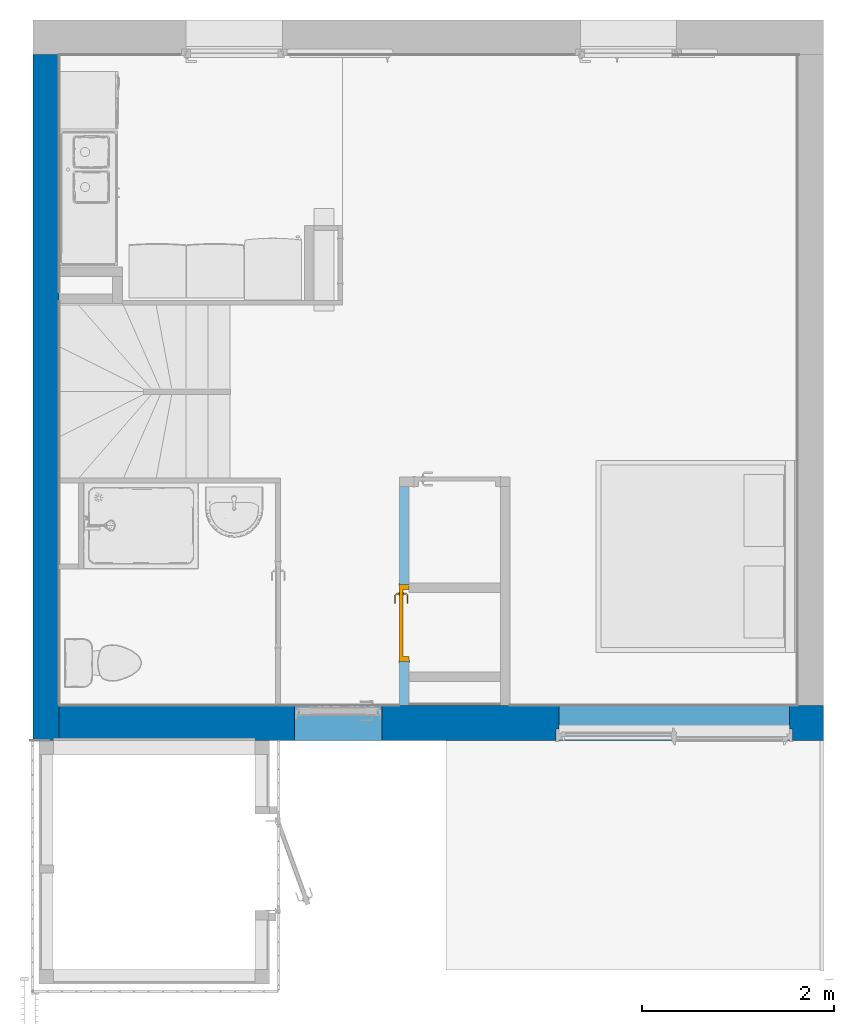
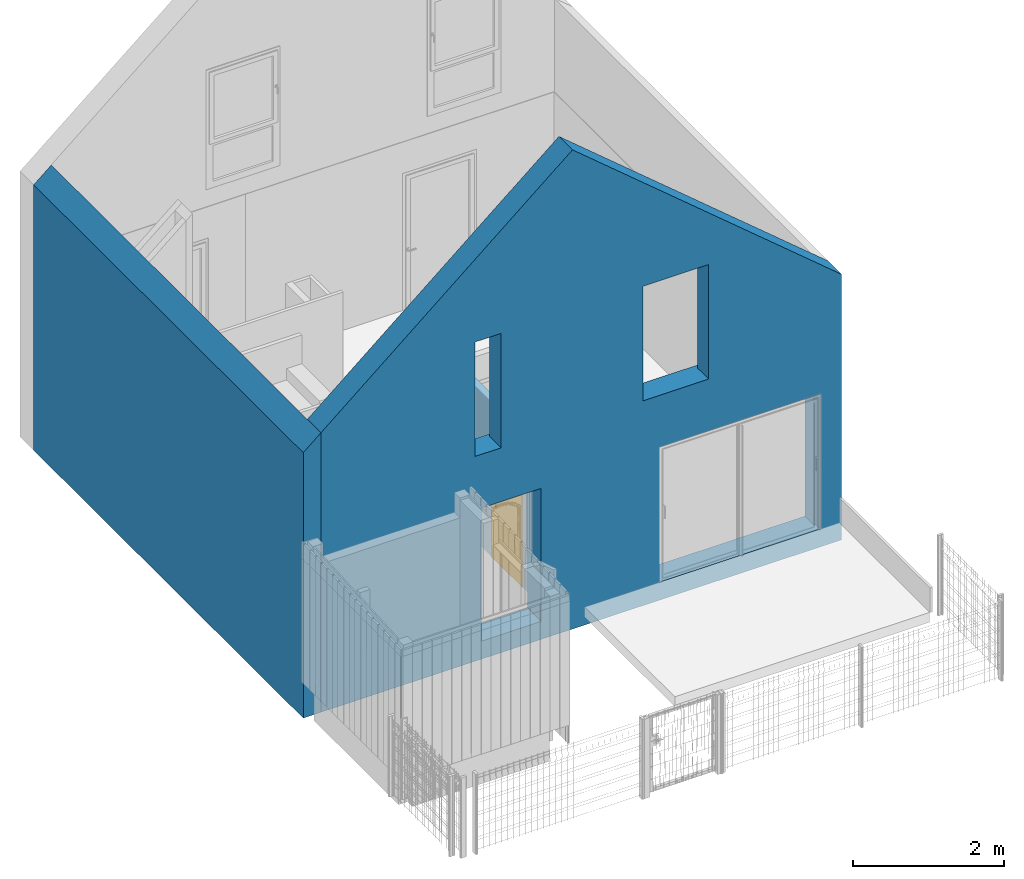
# One storey, part 75 of 81: 2 walls, 1 door, 1 opening, plus 1 element that does not belong to this part.
"""IFC2X3 building model written with IfcOpenShell, lengths in metres."""

from ifc_helpers import new_model, entity, si_unit, converted_unit, derived_unit, direction, frame, frame_2d, origin, place, context, subcontext, project, spatial, polyline, rectangle, extrude, clip, bounded_halfspace, faceted_brep, source, transform, mapped, material, material_list, layer, layer_set, layer_usage, type_object, type_shapes, element, fill, save


model = new_model("IFC2X3")

# Units and contexts
model_context = context("Model", 3, precision=1e-05, world=origin(), true_north=direction((6.12303176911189e-17, 1.0)))
body_context = subcontext(model_context, "Body", "Model", "MODEL_VIEW")
ifc_project = project(units=[si_unit("LENGTHUNIT", "METRE"), si_unit("AREAUNIT", "SQUARE_METRE"), si_unit("VOLUMEUNIT", "CUBIC_METRE"), converted_unit("PLANEANGLEUNIT", "DEGREE", entity("IfcRatioMeasure", 0.0174532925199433), si_unit("PLANEANGLEUNIT", "RADIAN"), dimensions=[0, 0, 0, 0, 0, 0, 0]), si_unit("MASSUNIT", "GRAM", prefix="KILO"), derived_unit("MASSDENSITYUNIT", [(si_unit("MASSUNIT", "GRAM", prefix="KILO"), 1), (si_unit("LENGTHUNIT", "METRE"), -3)]), derived_unit("MOMENTOFINERTIAUNIT", [(si_unit("LENGTHUNIT", "METRE"), 4)]), si_unit("TIMEUNIT", "SECOND"), si_unit("FREQUENCYUNIT", "HERTZ"), si_unit("THERMODYNAMICTEMPERATUREUNIT", "DEGREE_CELSIUS"), derived_unit("THERMALTRANSMITTANCEUNIT", [(si_unit("MASSUNIT", "GRAM", prefix="KILO"), 1), (si_unit("THERMODYNAMICTEMPERATUREUNIT", "KELVIN"), -1), (si_unit("TIMEUNIT", "SECOND"), -3)]), derived_unit("VOLUMETRICFLOWRATEUNIT", [(si_unit("LENGTHUNIT", "METRE"), 3), (si_unit("TIMEUNIT", "SECOND"), -1)]), si_unit("ELECTRICCURRENTUNIT", "AMPERE"), si_unit("ELECTRICVOLTAGEUNIT", "VOLT"), si_unit("POWERUNIT", "WATT"), si_unit("FORCEUNIT", "NEWTON", prefix="KILO"), si_unit("ILLUMINANCEUNIT", "LUX"), si_unit("LUMINOUSFLUXUNIT", "LUMEN"), si_unit("LUMINOUSINTENSITYUNIT", "CANDELA"), derived_unit("USERDEFINED", [(si_unit("MASSUNIT", "GRAM", prefix="KILO"), -1), (si_unit("LENGTHUNIT", "METRE"), -2), (si_unit("TIMEUNIT", "SECOND"), 3), (si_unit("LUMINOUSFLUXUNIT", "LUMEN"), 1)]), derived_unit("LINEARVELOCITYUNIT", [(si_unit("LENGTHUNIT", "METRE"), 1), (si_unit("TIMEUNIT", "SECOND"), -1)]), si_unit("PRESSUREUNIT", "PASCAL"), derived_unit("USERDEFINED", [(si_unit("LENGTHUNIT", "METRE"), -2), (si_unit("MASSUNIT", "GRAM", prefix="KILO"), 1), (si_unit("TIMEUNIT", "SECOND"), -2)]), derived_unit("LINEARFORCEUNIT", [(si_unit("MASSUNIT", "GRAM", prefix="KILO"), 1), (si_unit("LENGTHUNIT", "METRE"), 1), (si_unit("TIMEUNIT", "SECOND"), -2), (si_unit("LENGTHUNIT", "METRE"), -1)]), derived_unit("PLANARFORCEUNIT", [(si_unit("MASSUNIT", "GRAM", prefix="KILO"), 1), (si_unit("LENGTHUNIT", "METRE"), 1), (si_unit("TIMEUNIT", "SECOND"), -2), (si_unit("LENGTHUNIT", "METRE"), -2)])], contexts=[model_context])

# Site, building, storey
site_placement = place(None, origin())
site = spatial("IfcSite", under=ifc_project, at=site_placement, Name="Surface", CompositionType="ELEMENT")
building_placement = place(site_placement, origin())
building = spatial("IfcBuilding", under=site, at=building_placement, CompositionType="ELEMENT")
storey_placement = place(building_placement, origin())
storey = spatial("IfcBuildingStorey", under=building, at=storey_placement, Name="01 RDC", CompositionType="ELEMENT", Elevation=-1.94916083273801e-14)

# Walls
ifc_material_1 = material(Name="Maçonnerie - Enduit")
ifc_layer_1 = layer(ifc_material_1, 0.02)
ifc_material_2 = material(Name="Blocs béton manufacturés")
ifc_layer_2 = layer(ifc_material_2, 0.2)
ifc_material_3 = material(Name="Maçonnerie - Isolant")
ifc_layer_3 = layer(ifc_material_3, 0.14)
ifc_layer_set_1 = layer_set([ifc_layer_1, ifc_layer_2, ifc_layer_3], Name="Mur de base:Ext. Enduit 2 + Parpaing 20 + Isolant 14")
wall_type_1 = type_object("IfcWallType", Name="Mur de base:Ext. Enduit 2 + Parpaing 20 + Isolant 14", PredefinedType="STANDARD", material=ifc_layer_set_1)
wall_1_placement = place(storey_placement, frame((13.6965615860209, -3.51596095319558, -0.29), z_axis=(0.0, 0.0, 1.0), x_axis=(-1.0, 0.0, 0.0)))
element("IfcWall", 1, at=wall_1_placement, inside=storey, type_object=wall_type_1, Name="Mur de base:Ext. Enduit 2 + Parpaing 20 + Isolant 14", ObjectType="Mur de base:Ext. Enduit 2 + Parpaing 20 + Isolant 14", context=body_context, shape_type="Brep", body=[
    faceted_brep([(0.0, -0.18, 4.29000000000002), (0.0, -0.18, 0.0), (0.11999999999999, -0.18, 0.0), (0.119999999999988, -0.18, 0.28), (0.270000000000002, -0.18, 0.28), (7.95999999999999, -0.18, 0.28), (7.95999999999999, -0.18, 4.51655690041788), (4.115, -0.18, 7.74289498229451), (0.270000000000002, -0.18, 4.51655690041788), (0.355000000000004, -0.18, 2.44), (2.755, -0.18, 2.44), (2.755, -0.18, 0.29), (0.355000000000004, -0.18, 0.29), (4.595, -0.18, 2.44000000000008), (5.505, -0.18, 2.44000000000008), (5.505, -0.18, 0.290000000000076), (4.595, -0.18, 0.290000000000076), (1.98200000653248, -0.18, 3.30600000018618), (1.98200000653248, -0.18, 5.21149999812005), (3.0850000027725, -0.18, 5.21149999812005), (3.0850000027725, -0.18, 3.30600000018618), (5.65799999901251, -0.18, 5.21149999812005), (5.65799999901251, -0.18, 3.30600000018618), (5.1550000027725, -0.18, 3.30600000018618), (5.1550000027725, -0.18, 5.21149999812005), (7.95999999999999, 0.18, 0.0), (0.0, 0.18, 0.0), (0.0, 0.18, 4.29000000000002), (4.115, 0.18, 7.74289498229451), (7.95999999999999, 0.18, 4.51655690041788), (5.6065000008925, 0.18, 5.16000000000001), (5.2065000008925, 0.18, 5.16000000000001), (5.2065000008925, 0.18, 3.31000000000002), (5.6065000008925, 0.18, 3.31000000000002), (3.03350000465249, 0.18, 5.16000000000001), (2.03350000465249, 0.18, 5.16000000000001), (2.03350000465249, 0.18, 3.31000000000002), (3.03350000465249, 0.18, 3.31000000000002), (2.755, 0.18, 0.29), (2.785, 0.18, 0.29), (2.785, 0.18, 2.47), (0.325000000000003, 0.18, 2.47), (0.325000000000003, 0.18, 0.29), (0.355000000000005, 0.18, 0.29), (5.505, 0.18, 2.44000000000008), (4.595, 0.18, 2.44000000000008), (4.595, 0.18, 0.290000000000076), (5.505, 0.18, 0.290000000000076), (7.95999999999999, 0.0599999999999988, 0.0), (0.119999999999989, 0.0599999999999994, 0.0), (0.119999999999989, 0.0599999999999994, 0.28), (7.95999999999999, 0.0599999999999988, 0.28), (0.355000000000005, 0.0599999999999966, 2.44), (2.755, 0.0599999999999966, 2.44), (2.755, 0.0599999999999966, 0.29), (2.78500000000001, 0.0599999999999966, 0.29), (0.325000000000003, 0.0599999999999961, 0.29), (0.355000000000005, 0.0599999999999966, 0.29), (2.78500000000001, 0.0599999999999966, 2.47), (0.325000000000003, 0.0599999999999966, 2.47), (3.03350000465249, -0.119999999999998, 5.16000000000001), (2.03350000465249, -0.119999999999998, 5.16000000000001), (2.03350000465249, -0.119999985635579, 3.31000000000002), (3.03350000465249, -0.119999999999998, 3.31000000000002), (2.03350000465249, -0.119999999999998, 3.31000000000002), (3.03350000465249, -0.119999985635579, 3.31000000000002), (3.0850000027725, -0.119999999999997, 5.21149999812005), (1.98200000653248, -0.119999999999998, 5.21149999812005), (1.98200000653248, -0.119999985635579, 3.30600000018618), (3.0850000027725, -0.119999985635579, 3.30600000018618), (5.20650000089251, -0.119999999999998, 5.16000000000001), (5.60650000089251, -0.119999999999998, 5.16000000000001), (5.60650000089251, -0.119999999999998, 3.31000000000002), (5.20650000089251, -0.11999998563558, 3.31000000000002), (5.20650000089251, -0.119999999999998, 3.31000000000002), (5.60650000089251, -0.11999998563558, 3.31000000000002), (5.65799999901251, -0.119999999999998, 5.21149999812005), (5.1550000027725, -0.119999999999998, 5.21149999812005), (5.1550000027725, -0.119999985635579, 3.30600000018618), (5.65799999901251, -0.119999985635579, 3.30600000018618)], [[[0, 1, 2, 3, 4, 5, 6, 7, 8], [9, 10, 11, 12], [13, 14, 15, 16], [17, 18, 19, 20], [21, 22, 23, 24]], [[25, 26, 27, 28, 29], [30, 31, 32, 33], [34, 35, 36, 37], [38, 39, 40, 41, 42, 43], [44, 45, 46, 47]], [[26, 25, 48, 49, 2, 1]], [[1, 0, 27, 26]], [[27, 0, 8, 7, 28]], [[7, 6, 29, 28]], [[3, 50, 51, 5, 4]], [[49, 50, 3, 2]], [[50, 49, 48, 51]], [[52, 53, 10, 9]], [[54, 55, 39, 38, 43, 42, 56, 57, 12, 11]], [[53, 54, 11, 10]], [[57, 52, 9, 12]], [[39, 55, 58, 40]], [[53, 52, 57, 56, 59, 58, 55, 54]], [[40, 58, 59, 41]], [[56, 42, 41, 59]], [[13, 45, 44, 14]], [[15, 47, 46, 16]], [[14, 44, 47, 15]], [[45, 13, 16, 46]], [[34, 60, 61, 35]], [[36, 62, 63, 37]], [[35, 61, 64, 36]], [[60, 65, 64, 61], [66, 67, 68, 69]], [[68, 67, 18, 17]], [[66, 69, 20, 19]], [[63, 60, 34, 37]], [[69, 68, 17, 20]], [[67, 66, 19, 18]], [[70, 31, 30, 71]], [[72, 33, 32, 73]], [[71, 30, 33, 72]], [[74, 70, 71, 75], [76, 77, 78, 79]], [[76, 79, 22, 21]], [[78, 77, 24, 23]], [[70, 74, 32, 31]], [[79, 78, 23, 22]], [[77, 76, 21, 24]], [[29, 6, 5, 51, 48, 25]]], outer=[[True, False, False, False, False], [True, False, False, False, False], [True], [True], [True], [True], [True], [True], [True], [True], [True], [True], [True], [True], [True], [True], [True], [True], [True], [True], [True], [True], [True], [True], [False, True], [True], [True], [True], [True], [True], [True], [True], [True], [False, True], [True], [True], [True], [True], [True], [True]]),
])
ifc_material_4 = material(Name="Maçonnerie - Enduit Blanc")
ifc_layer_4 = layer(ifc_material_4, 0.02)
ifc_layer_5 = layer(ifc_material_2, 0.2)
ifc_layer_6 = layer(ifc_material_3, 0.04)
ifc_material_5 = material(Name="Placoplâtre de gypse")
ifc_layer_7 = layer(ifc_material_5, 0.01)
ifc_layer_set_2 = layer_set([ifc_layer_4, ifc_layer_5, ifc_layer_6, ifc_layer_7], Name="Mur de base:Ext. Parpaing 20 + Isolant 5 + BA10")
wall_type_2 = type_object("IfcWallType", Name="Mur de base:Ext. Parpaing 20 + Isolant 5 + BA10", PredefinedType="STANDARD", material=ifc_layer_set_2)
wall_2_placement = place(storey_placement, frame((5.6015615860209, 3.44303904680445, -0.29), z_axis=(0.0, 0.0, 1.0), x_axis=(0.0, -1.0, 0.0)))
element("IfcWall", 2, at=wall_2_placement, inside=storey, type_object=wall_type_2, Name="Mur de base:Ext. Parpaing 20 + Isolant 5 + BA10", ObjectType="Mur de base:Ext. Parpaing 20 + Isolant 5 + BA10", context=body_context, shape_type="Brep", body=[
    faceted_brep([(0.0, -0.135000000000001, 0.0), (7.139, -0.135000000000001, 0.0), (7.139, -0.135000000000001, 4.29000000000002), (0.0, -0.135000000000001, 4.29000000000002), (0.0, 0.134999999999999, 4.51655690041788), (6.779, 0.134999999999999, 4.51655690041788), (7.139, 0.134999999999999, 4.51655690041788), (7.139, 0.134999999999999, 0.0), (7.019, 0.134999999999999, 0.0), (7.019, 0.134999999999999, 0.28), (6.779, 0.134999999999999, 0.28), (4.40113539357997, 0.134999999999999, 0.28), (4.40113539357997, 0.134999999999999, 0.0), (2.60900000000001, 0.134999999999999, 0.0), (2.60900000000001, 0.134999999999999, 0.28), (0.0, 0.134999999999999, 0.28), (0.0, -0.0150000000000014, 0.0), (2.60900000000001, -0.0150000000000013, 0.0), (4.40113539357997, -0.00979609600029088, 0.0), (7.019, -0.00979609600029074, 0.0), (0.0, -0.0150000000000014, 0.28), (2.60900000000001, -0.0150000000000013, 0.28), (7.019, -0.00979609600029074, 0.28), (4.40113539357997, -0.00979609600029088, 0.28)], [[[0, 1, 2, 3]], [[4, 5, 6, 7, 8, 9, 10, 11, 12, 13, 14, 15]], [[1, 0, 16, 17, 13, 12, 18, 19, 8, 7]], [[0, 3, 4, 15, 20, 16]], [[3, 2, 6, 5, 4]], [[21, 20, 15, 14]], [[21, 17, 16, 20]], [[19, 22, 9, 8]], [[23, 22, 19, 18]], [[23, 18, 12, 11]], [[17, 21, 14, 13]], [[1, 7, 6, 2]], [[22, 23, 11, 10, 9]]]),
])

# Wall, opening, door
ifc_material_6 = material(Name="Isolant - laine minérale")
ifc_layer_8 = layer(ifc_material_6, 0.1)
ifc_layer_set_3 = layer_set([ifc_layer_8], Name="Mur de base:Int. Polyester 100 mm")
ifc_layer_usage = layer_usage(ifc_layer_set_3, "AXIS2", "NEGATIVE", 0.05)
wall_type_3 = type_object("IfcWallType", Name="Mur de base:Int. Polyester 100 mm", PredefinedType="STANDARD", material=ifc_layer_set_3)
wall_3_placement = place(storey_placement, frame((9.33156158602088, -1.05596095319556, 0.0), z_axis=(0.0, 0.0, 1.0), x_axis=(0.0, -1.0, 0.0)))
wall_3 = element("IfcWallStandardCase", 3, at=wall_3_placement, inside=storey, type_object=wall_type_3, material=ifc_layer_usage, Name="Mur de base:Int. Polyester 100 mm", ObjectType="Mur de base:Int. Polyester 100 mm", context=body_context, shape_type="Clipping", body=[
    clip(extrude(rectangle(XDim=2.28, YDim=0.0999999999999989, at=frame_2d((1.14, -3.43475248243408e-16), x_axis=(-1.0, 0.0))), origin(), (0.0, 0.0, 1.0), 2.495), bounded_halfspace(frame((0.0, -0.050000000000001, 2.495), z_axis=(0.0, 0.0, -1.0), x_axis=(-1.0, 0.0, 0.0)), True, frame((0.0, -0.050000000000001, 2.495)), polyline([(0.0, 0.0), (2.28, 0.0), (2.28, 0.0999999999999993), (2.03, 0.1), (1.93, 0.0999999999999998), (1.1, 0.0999999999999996), (1.0, 0.0999999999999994), (0.0, 0.1), (0.0, 0.0)]))),
])
opening_placement = place(wall_3_placement, frame((1.82, 0.0499999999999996, 0.0)))
opening = element("IfcOpeningElement", 4, at=opening_placement, cuts=wall_3, Name="Int. Simple:PP (0.73m x 2.04m):1", ObjectType="Opening", context=body_context, shape_type="SweptSolid", body=[
    extrude(rectangle(XDim=2.075, YDim=0.799999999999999, at=frame_2d((1.0375, 0.4), x_axis=(1.0, 0.0))), frame((0.0, 0.0, 0.0), z_axis=(0.0, -1.0, 0.0), x_axis=(0.0, 0.0, 1.0)), (0.0, 0.0, 1.0), 0.1),
])
ifc_material_7 = material(Name="Finition Peinture - Blanc satiné")
ifc_material_8 = material(Name="Bois - Panneau de porte")
ifc_material_9 = material(Name="Bois - Cadre de porte")
ifc_material_list_1 = material_list([ifc_material_7, ifc_material_8, ifc_material_9])
ifc_material_list_2 = material_list([ifc_material_7, ifc_material_8, ifc_material_9, ifc_material_9])
door_style = type_object("IfcDoorStyle", Name="Int. Simple:PP (0.73m x 2.04m)", ConstructionType="NOTDEFINED", OperationType="NOTDEFINED", ParameterTakesPrecedence=False, Sizeable=False, material=ifc_material_list_2)
shared_shape = source(origin(), body_context, "Body", "Brep", [
    faceted_brep([(0.105352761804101, -0.00500000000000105, 0.866003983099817), (0.115, -0.00500000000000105, 0.870000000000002), (0.114999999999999, -0.00500000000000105, 1.08), (0.1053527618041, -0.00500000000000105, 1.08399601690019), (0.0949999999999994, -0.00500000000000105, 1.08535898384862), (0.0846472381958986, -0.00500000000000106, 1.08399601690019), (0.0749999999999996, -0.00500000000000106, 1.08), (0.0750000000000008, -0.00500000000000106, 0.870000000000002), (0.0846472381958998, -0.00500000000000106, 0.866003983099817), (0.0950000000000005, -0.00500000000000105, 0.86464101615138), (0.1053527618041, 0.0, 1.08399601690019), (0.114999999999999, 0.0, 1.08), (0.115, 0.0, 0.870000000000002), (0.105352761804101, 0.0, 0.866003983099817), (0.0950000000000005, 0.0, 0.86464101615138), (0.0846472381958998, 0.0, 0.866003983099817), (0.0749999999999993, 0.0, 0.870000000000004), (0.0749999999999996, 0.0, 1.08), (0.0846472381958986, 0.0, 1.08399601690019), (0.0949999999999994, 0.0, 1.08535898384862)], [[[0, 1, 2, 3, 4, 5, 6, 7, 8, 9]], [[10, 11, 12, 13, 14, 15, 16, 17, 18, 19]], [[16, 15, 8, 7]], [[8, 15, 14, 9]], [[14, 13, 0, 9]], [[13, 12, 1, 0]], [[2, 1, 12, 11]], [[11, 10, 3, 2]], [[3, 10, 19, 4]], [[19, 18, 5, 4]], [[18, 17, 6, 5]], [[7, 6, 17, 16]]]),
    faceted_brep([(0.105352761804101, 0.0399999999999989, 0.866003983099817), (0.115, 0.0399999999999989, 0.870000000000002), (0.114999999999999, 0.0399999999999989, 1.08), (0.1053527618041, 0.0399999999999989, 1.08399601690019), (0.094999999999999, 0.0399999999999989, 1.08535898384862), (0.0846472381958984, 0.0399999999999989, 1.08399601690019), (0.0749999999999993, 0.0399999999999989, 1.08), (0.0750000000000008, 0.0399999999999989, 0.870000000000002), (0.0846472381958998, 0.0399999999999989, 0.866003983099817), (0.0950000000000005, 0.0399999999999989, 0.86464101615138), (0.1053527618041, 0.0449999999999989, 1.08399601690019), (0.114999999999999, 0.0449999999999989, 1.08), (0.115, 0.0449999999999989, 0.870000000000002), (0.105352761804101, 0.0449999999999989, 0.866003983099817), (0.0950000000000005, 0.0449999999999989, 0.86464101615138), (0.0846472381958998, 0.0449999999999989, 0.866003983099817), (0.0749999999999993, 0.0449999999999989, 0.870000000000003), (0.0749999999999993, 0.0449999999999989, 1.08), (0.0846472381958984, 0.0449999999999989, 1.08399601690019), (0.094999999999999, 0.0449999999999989, 1.08535898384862)], [[[0, 1, 2, 3, 4, 5, 6, 7, 8, 9]], [[10, 11, 12, 13, 14, 15, 16, 17, 18, 19]], [[11, 10, 3, 2]], [[3, 10, 19, 4]], [[19, 18, 5, 4]], [[18, 17, 6, 5]], [[7, 6, 17, 16]], [[16, 15, 8, 7]], [[8, 15, 14, 9]], [[14, 13, 0, 9]], [[13, 12, 1, 0]], [[2, 1, 12, 11]]]),
    faceted_brep([(0.0929747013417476, -0.00500000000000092, 1.00778044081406), (0.0970252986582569, -0.0050000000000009, 1.00778044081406), (0.101000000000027, -0.00500000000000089, 1.00699999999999), (0.101000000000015, -0.00500000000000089, 0.993000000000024), (0.0970252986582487, -0.0050000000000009, 0.992219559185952), (0.0929747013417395, -0.00500000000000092, 0.99221955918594), (0.0889999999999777, -0.00500000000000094, 0.992999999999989), (0.0889999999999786, -0.00500000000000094, 1.007), (0.0889999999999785, -0.0326509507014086, 1.007), (0.0929747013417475, -0.0310045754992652, 1.00778044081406), (0.109023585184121, -0.0470534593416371, 1.00778044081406), (0.110701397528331, -0.0430028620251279, 1.00778044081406), (0.0970252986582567, -0.0293267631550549, 1.00778044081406), (0.101000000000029, -0.0276803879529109, 1.007), (0.101000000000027, -0.0276803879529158, 0.993000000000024), (0.0970252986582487, -0.0293267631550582, 0.992219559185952), (0.110701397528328, -0.0430028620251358, 0.992219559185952), (0.109023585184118, -0.0470534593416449, 0.99221955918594), (0.0929747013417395, -0.0310045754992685, 0.99221955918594), (0.0889999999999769, -0.0326509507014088, 0.992999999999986), (0.107377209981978, -0.0510281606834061, 1.007), (0.112347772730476, -0.0390281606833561, 1.007), (0.112347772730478, -0.0390281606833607, 0.993000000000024), (0.107377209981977, -0.0510281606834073, 0.992999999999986), (0.195018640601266, -0.051028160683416, 0.992999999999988), (0.195018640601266, -0.0470534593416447, 0.99221955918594), (0.195018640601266, -0.0430028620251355, 0.992219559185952), (0.195018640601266, -0.0390281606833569, 0.993000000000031), (0.195018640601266, -0.0390281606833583, 1.007), (0.195018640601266, -0.0430028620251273, 1.00778044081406), (0.195018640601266, -0.0470534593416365, 1.00778044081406), (0.195018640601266, -0.0510281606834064, 1.00699999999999), (0.147307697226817, -0.0510281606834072, 1.007), (0.152860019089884, -0.045028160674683, 1.0078786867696), (0.15368320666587, -0.039028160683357, 1.007), (0.153683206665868, -0.0390281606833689, 0.993000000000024), (0.152860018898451, -0.0450281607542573, 0.992121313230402), (0.147307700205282, -0.0510281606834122, 0.992999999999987)], [[[0, 1, 2, 3, 4, 5, 6, 7]], [[8, 9, 0, 7]], [[9, 10, 11, 12, 1, 0]], [[12, 13, 2, 1]], [[3, 2, 13, 14]], [[14, 15, 4, 3]], [[15, 16, 17, 18, 5, 4]], [[18, 19, 6, 5]], [[7, 6, 19, 8]], [[20, 10, 9, 8]], [[11, 21, 13, 12]], [[14, 13, 21, 22]], [[22, 16, 15, 14]], [[17, 23, 19, 18]], [[8, 19, 23, 20]], [[24, 25, 26, 27, 28, 29, 30, 31]], [[32, 30, 33]], [[31, 30, 32]], [[10, 20, 32]], [[33, 34, 11]], [[21, 11, 34]], [[34, 29, 28]], [[30, 29, 33]], [[29, 34, 33]], [[10, 32, 33]], [[10, 33, 11]], [[22, 21, 34, 28, 27, 35]], [[35, 26, 36]], [[37, 36, 25]], [[22, 35, 16]], [[35, 27, 26]], [[24, 37, 25]], [[23, 17, 37]], [[37, 17, 36]], [[17, 16, 36]], [[16, 35, 36]], [[25, 36, 26]], [[20, 23, 37, 24, 31, 32]]]),
    faceted_brep([(0.0929747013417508, 0.0449999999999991, 1.00778044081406), (0.0889999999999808, 0.044999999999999, 1.007), (0.0889999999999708, 0.044999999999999, 0.992999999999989), (0.0929747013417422, 0.0449999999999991, 0.99221955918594), (0.0970252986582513, 0.0449999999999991, 0.992219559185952), (0.10100000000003, 0.0449999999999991, 0.993000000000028), (0.101000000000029, 0.0449999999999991, 1.007), (0.0970252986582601, 0.0449999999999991, 1.00778044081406), (0.10100000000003, 0.067485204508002, 0.993000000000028), (0.10100000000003, 0.0674852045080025, 1.007), (0.0970252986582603, 0.0691315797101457, 1.00778044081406), (0.110838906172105, 0.0829451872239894, 1.00778044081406), (0.109161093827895, 0.0869957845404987, 1.00778044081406), (0.092974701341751, 0.070809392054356, 1.00778044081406), (0.0889999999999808, 0.0724557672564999, 1.007), (0.0889999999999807, 0.072455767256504, 0.992999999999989), (0.0929747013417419, 0.0708093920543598, 0.99221955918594), (0.109161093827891, 0.0869957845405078, 0.99221955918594), (0.110838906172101, 0.0829451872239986, 0.992219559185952), (0.0970252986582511, 0.0691315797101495, 0.992219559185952), (0.112485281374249, 0.0789704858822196, 0.993000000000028), (0.112485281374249, 0.0789704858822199, 1.007), (0.107514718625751, 0.0909704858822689, 1.007), (0.107514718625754, 0.090970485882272, 0.992999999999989), (0.195045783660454, 0.0789704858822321, 0.993000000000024), (0.195045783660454, 0.0829451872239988, 0.992219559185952), (0.195045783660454, 0.086995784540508, 0.99221955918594), (0.195045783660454, 0.0909704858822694, 0.992999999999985), (0.195045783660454, 0.0909704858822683, 1.007), (0.195045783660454, 0.0869957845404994, 1.00778044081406), (0.195045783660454, 0.0829451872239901, 1.00778044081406), (0.195045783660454, 0.0789704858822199, 1.007), (0.153765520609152, 0.0789704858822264, 0.993000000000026), (0.153765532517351, 0.0789704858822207, 1.007), (0.152942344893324, 0.0849704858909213, 1.0078786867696), (0.147445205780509, 0.0909704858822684, 1.007), (0.147445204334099, 0.0909704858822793, 0.992999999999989), (0.152942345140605, 0.0849704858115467, 0.992121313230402)], [[[0, 1, 2, 3, 4, 5, 6, 7]], [[6, 5, 8, 9]], [[9, 10, 7, 6]], [[10, 11, 12, 13, 0, 7]], [[13, 14, 1, 0]], [[2, 1, 14, 15]], [[15, 16, 3, 2]], [[16, 17, 18, 19, 4, 3]], [[19, 8, 5, 4]], [[9, 8, 20, 21]], [[21, 11, 10, 9]], [[12, 22, 14, 13]], [[15, 14, 22, 23]], [[23, 17, 16, 15]], [[18, 20, 8, 19]], [[24, 25, 26, 27, 28, 29, 30, 31]], [[21, 20, 32, 24, 31, 33]], [[33, 30, 34]], [[35, 34, 29]], [[21, 33, 11]], [[33, 31, 30]], [[28, 35, 29]], [[22, 12, 35]], [[35, 12, 34]], [[12, 11, 34]], [[11, 33, 34]], [[29, 34, 30]], [[22, 35, 28, 27, 36, 23]], [[36, 26, 37]], [[27, 26, 36]], [[17, 23, 36]], [[37, 32, 18]], [[20, 18, 32]], [[32, 25, 24]], [[26, 25, 37]], [[25, 32, 37]], [[17, 36, 37]], [[17, 37, 18]]]),
    faceted_brep([(0.0349999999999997, 0.04, 2.04), (0.765, 0.04, 2.04), (0.765, 0.04, 0.0), (0.0349999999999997, 0.04, 0.0), (0.0349999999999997, 0.0, 2.04), (0.0349999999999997, 0.0, 0.0), (0.765, 0.0, 0.0), (0.765, 0.0, 2.04)], [[[0, 1, 2, 3]], [[4, 5, 6, 7]], [[1, 0, 4, 7]], [[2, 1, 7, 6]], [[3, 2, 6, 5]], [[0, 3, 5, 4]]]),
    faceted_brep([(0.0, 0.0, 0.0), (0.0, 0.100000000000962, 0.0), (0.0499999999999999, 0.100000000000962, 0.0), (0.0499999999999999, 0.040000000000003, 0.0), (0.0349999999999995, 0.040000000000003, 0.0), (0.0349999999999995, 0.0, 0.0), (0.0, 0.0, 2.07500000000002), (0.0, 0.100000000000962, 2.07500000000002), (0.800000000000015, 0.100000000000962, 2.07500000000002), (0.800000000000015, 0.100000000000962, 0.0), (0.75, 0.100000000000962, 0.0), (0.75, 0.100000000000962, 2.025), (0.05, 0.100000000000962, 2.025), (0.05, 0.040000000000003, 2.025), (0.75, 0.040000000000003, 2.025), (0.75, 0.040000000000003, 0.0), (0.765, 0.040000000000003, 0.0), (0.765, 0.040000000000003, 2.04), (0.0349999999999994, 0.040000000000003, 2.04), (0.0349999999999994, 0.0, 2.04), (0.765, 0.0, 2.04), (0.765, 0.0, 0.0), (0.800000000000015, 0.0, 0.0), (0.800000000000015, 0.0, 2.07500000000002)], [[[0, 1, 2, 3, 4, 5]], [[1, 0, 6, 7]], [[2, 1, 7, 8, 9, 10, 11, 12]], [[3, 2, 12, 13]], [[4, 3, 13, 14, 15, 16, 17, 18]], [[5, 4, 18, 19]], [[0, 5, 19, 20, 21, 22, 23, 6]], [[8, 23, 22, 9]], [[22, 21, 16, 15, 10, 9]], [[14, 11, 10, 15]], [[20, 17, 16, 21]], [[7, 6, 23, 8]], [[13, 12, 11, 14]], [[19, 18, 17, 20]]]),
    faceted_brep([(0.0149999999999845, 0.100000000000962, 0.0), (-0.0150000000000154, 0.100000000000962, 0.0), (-0.0150000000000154, 0.105000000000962, 0.0), (0.0149999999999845, 0.105000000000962, 0.0), (0.0149999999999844, 0.100000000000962, 2.06000000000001), (0.784999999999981, 0.100000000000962, 2.06000000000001), (0.78499999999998, 0.100000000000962, 0.0), (0.81499999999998, 0.100000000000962, 0.0), (0.81499999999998, 0.100000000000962, 2.09000000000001), (-0.0150000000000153, 0.100000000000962, 2.09000000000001), (-0.0150000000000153, 0.105000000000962, 2.09000000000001), (0.814999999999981, 0.105000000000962, 2.09000000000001), (0.814999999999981, 0.105000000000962, 0.0), (0.784999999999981, 0.105000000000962, 0.0), (0.784999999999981, 0.105000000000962, 2.06000000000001), (0.0149999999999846, 0.105000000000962, 2.06000000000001)], [[[0, 1, 2, 3]], [[1, 0, 4, 5, 6, 7, 8, 9]], [[2, 1, 9, 10]], [[3, 2, 10, 11, 12, 13, 14, 15]], [[0, 3, 15, 4]], [[6, 13, 12, 7]], [[5, 14, 13, 6]], [[11, 8, 7, 12]], [[10, 9, 8, 11]], [[4, 15, 14, 5]]]),
    faceted_brep([(-0.0150000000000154, -0.005, 0.0), (0.0149999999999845, -0.005, 0.0), (0.0149999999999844, -0.005, 2.06000000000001), (0.784999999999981, -0.005, 2.06000000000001), (0.78499999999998, -0.005, 0.0), (0.81499999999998, -0.005, 0.0), (0.81499999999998, -0.005, 2.09000000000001), (-0.0150000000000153, -0.005, 2.09000000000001), (-0.0150000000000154, 0.0, 0.0), (-0.0150000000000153, 0.0, 2.09000000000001), (0.0149999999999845, 0.0, 0.0), (0.814999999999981, 0.0, 2.09000000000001), (0.814999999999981, 0.0, 0.0), (0.784999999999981, 0.0, 0.0), (0.784999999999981, 0.0, 2.06000000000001), (0.0149999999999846, 0.0, 2.06000000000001)], [[[0, 1, 2, 3, 4, 5, 6, 7]], [[8, 0, 7, 9]], [[10, 8, 9, 11, 12, 13, 14, 15]], [[1, 10, 15, 2]], [[3, 14, 13, 4]], [[11, 6, 5, 12]], [[9, 7, 6, 11]], [[2, 15, 14, 3]], [[4, 13, 12, 5]], [[1, 0, 8, 10]]]),
])
type_shapes(door_style, [shared_shape])
door_placement = place(opening_placement, frame((-0.799999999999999, -0.0999999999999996, 0.0)))
door = element("IfcDoor", 5, at=door_placement, inside=storey, type_object=door_style, material=ifc_material_list_1, Name="Int. Simple:PP (0.73m x 2.04m)", ObjectType="Int. Simple:PP (0.73m x 2.04m)", OverallHeight=2.075, OverallWidth=0.799999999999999, context=body_context, shape_type="MappedRepresentation", body=[
    mapped(shared_shape, transform((0.0, 0.0, 0.0), scale=1.0)),
])
fill(opening, door)

save(model, "model.ifc")
